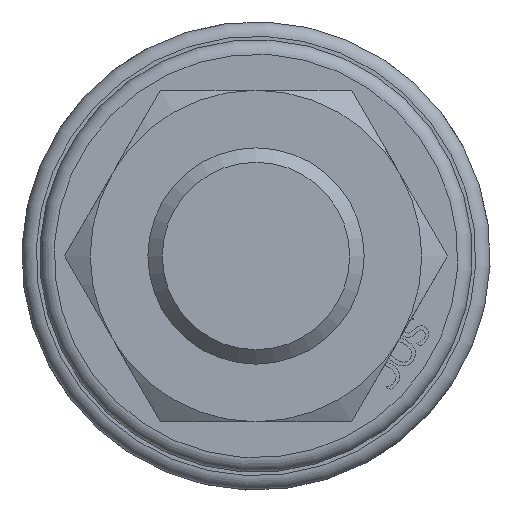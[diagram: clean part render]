
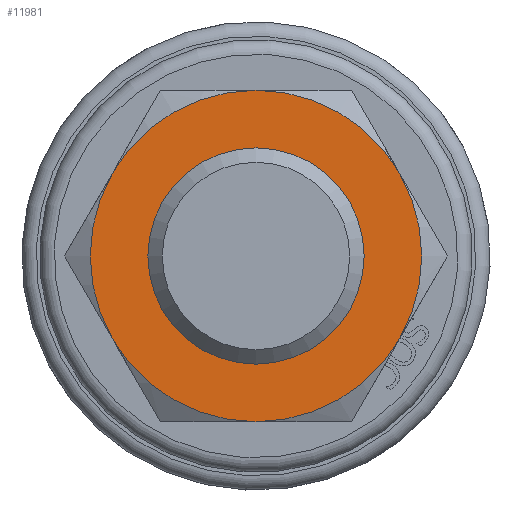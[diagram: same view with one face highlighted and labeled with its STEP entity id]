
A CAD part, front view. The second image highlights one B-rep face of the part: STEP entity #11981.
In plain terms, the highlighted planar face has unit normal (0, -1, 0) as drawn and (-1, 0, 0) by its records, which use the part's own axes.
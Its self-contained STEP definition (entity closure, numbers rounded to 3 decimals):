
#111=CIRCLE('',#12605,15.);
#113=CIRCLE('',#12609,23.);
#114=CIRCLE('',#12610,23.);
#115=CIRCLE('',#12611,23.);
#116=CIRCLE('',#12612,23.);
#117=CIRCLE('',#12613,23.);
#118=CIRCLE('',#12614,23.);
#177=FACE_BOUND('',#2393,.T.);
#1669=FACE_OUTER_BOUND('',#2392,.T.);
#2392=EDGE_LOOP('',(#9482,#9483,#9484,#9485,#9486,#9487));
#2393=EDGE_LOOP('',(#9488));
#5349=VERTEX_POINT('',#18420);
#5351=VERTEX_POINT('',#18426);
#5352=VERTEX_POINT('',#18427);
#5353=VERTEX_POINT('',#18429);
#5354=VERTEX_POINT('',#18431);
#5355=VERTEX_POINT('',#18433);
#5356=VERTEX_POINT('',#18435);
#6836=EDGE_CURVE('',#5349,#5349,#111,.T.);
#6838=EDGE_CURVE('',#5351,#5352,#113,.T.);
#6839=EDGE_CURVE('',#5352,#5353,#114,.T.);
#6840=EDGE_CURVE('',#5353,#5354,#115,.T.);
#6841=EDGE_CURVE('',#5354,#5355,#116,.T.);
#6842=EDGE_CURVE('',#5355,#5356,#117,.T.);
#6843=EDGE_CURVE('',#5356,#5351,#118,.T.);
#9482=ORIENTED_EDGE('',*,*,#6838,.T.);
#9483=ORIENTED_EDGE('',*,*,#6839,.T.);
#9484=ORIENTED_EDGE('',*,*,#6840,.T.);
#9485=ORIENTED_EDGE('',*,*,#6841,.T.);
#9486=ORIENTED_EDGE('',*,*,#6842,.T.);
#9487=ORIENTED_EDGE('',*,*,#6843,.T.);
#9488=ORIENTED_EDGE('',*,*,#6836,.F.);
#11531=PLANE('',#12608);
#11981=ADVANCED_FACE('',(#1669,#177),#11531,.F.);
#12605=AXIS2_PLACEMENT_3D('',#18421,#13642,#13643);
#12608=AXIS2_PLACEMENT_3D('',#18425,#13648,#13649);
#12609=AXIS2_PLACEMENT_3D('',#18428,#13650,#13651);
#12610=AXIS2_PLACEMENT_3D('',#18430,#13652,#13653);
#12611=AXIS2_PLACEMENT_3D('',#18432,#13654,#13655);
#12612=AXIS2_PLACEMENT_3D('',#18434,#13656,#13657);
#12613=AXIS2_PLACEMENT_3D('',#18436,#13658,#13659);
#12614=AXIS2_PLACEMENT_3D('',#18437,#13660,#13661);
#13642=DIRECTION('center_axis',(-1.,0.,0.));
#13643=DIRECTION('ref_axis',(0.,0.,-1.));
#13648=DIRECTION('center_axis',(1.,0.,0.));
#13649=DIRECTION('ref_axis',(0.,0.,-1.));
#13650=DIRECTION('center_axis',(-1.,0.,0.));
#13651=DIRECTION('ref_axis',(0.,1.,0.));
#13652=DIRECTION('center_axis',(-1.,0.,0.));
#13653=DIRECTION('ref_axis',(0.,1.,0.));
#13654=DIRECTION('center_axis',(-1.,0.,0.));
#13655=DIRECTION('ref_axis',(0.,1.,0.));
#13656=DIRECTION('center_axis',(-1.,0.,0.));
#13657=DIRECTION('ref_axis',(0.,1.,0.));
#13658=DIRECTION('center_axis',(-1.,0.,0.));
#13659=DIRECTION('ref_axis',(0.,1.,0.));
#13660=DIRECTION('center_axis',(-1.,0.,0.));
#13661=DIRECTION('ref_axis',(0.,1.,0.));
#18420=CARTESIAN_POINT('',(0.,0.,15.));
#18421=CARTESIAN_POINT('Origin',(0.,0.,0.));
#18425=CARTESIAN_POINT('Origin',(0.,0.,0.));
#18426=CARTESIAN_POINT('',(0.,-19.919,-11.5));
#18427=CARTESIAN_POINT('',(0.,-19.919,11.5));
#18428=CARTESIAN_POINT('Origin',(0.,0.,0.));
#18429=CARTESIAN_POINT('',(0.,0.,23.));
#18430=CARTESIAN_POINT('Origin',(0.,0.,0.));
#18431=CARTESIAN_POINT('',(0.,19.919,11.5));
#18432=CARTESIAN_POINT('Origin',(0.,0.,0.));
#18433=CARTESIAN_POINT('',(0.,19.919,-11.5));
#18434=CARTESIAN_POINT('Origin',(0.,0.,0.));
#18435=CARTESIAN_POINT('',(0.,0.,-23.));
#18436=CARTESIAN_POINT('Origin',(0.,0.,0.));
#18437=CARTESIAN_POINT('Origin',(0.,0.,0.));
